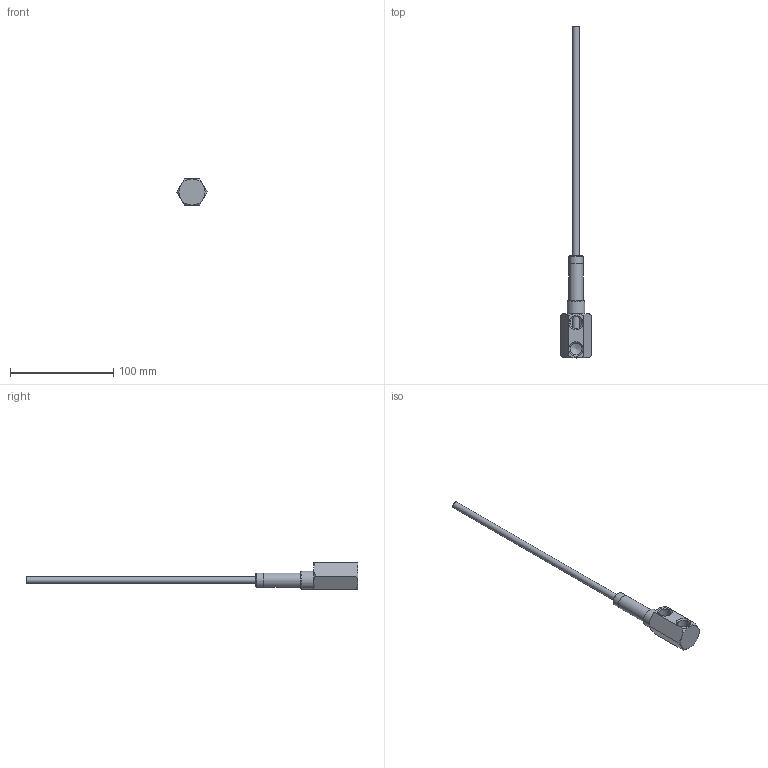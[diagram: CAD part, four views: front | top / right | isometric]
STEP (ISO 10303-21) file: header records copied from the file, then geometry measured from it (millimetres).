
FILE_DESCRIPTION(/* description */ (''),/* implementation_level */ '2;1');
FILE_NAME(/* name */ 'C:/Users/drich/Desktop/HF141N-4 v1.step',/* time_stamp */ '2020-01-15T19:32:36-06:00',/* author */ (''),/* organization */ (''),/* preprocessor_version */ 'ST-DEVELOPER v18',/* originating_system */ 'Autodesk Translation Framework v8.12.0.6',/* authorisation */ '');
FILE_SCHEMA (('AUTOMOTIVE_DESIGN { 1 0 10303 214 3 1 1 }'));
Length unit declared in the file: inch
Products named in the file (4): HF141N-4; HF141H-4; SSPN14-2; HF250T-12
Assembly tree (3 placements, depth 2):
  HF141N-4
    HF141H-4
    SSPN14-2
    HF250T-12
Bounding box: 29.33 x 320.98 x 25.4 mm (x, y, z)
Volume: 25158.5 mm3; surface area: 23200.3 mm2
Topology: 3 solids, 3 shells, 46 faces, 114 edges, 79 vertices
Faces by surface type: plane 17, cone 13, cylinder 13, torus 3
Full cylindrical faces by diameter (mm): 5.842 x1, 6.35 x1, 6.909 x1, 7.818 x1, 7.976 x1, 9.246 x1, 11.668 x3, 13.665 x2, 13.716 x1, 17.272 x1
Entity records: 1575 total; most frequent: CARTESIAN_POINT 318, DIRECTION 266, ORIENTED_EDGE 226, AXIS2_PLACEMENT_3D 118, EDGE_CURVE 113, VERTEX_POINT 79, CIRCLE 63, EDGE_LOOP 60
